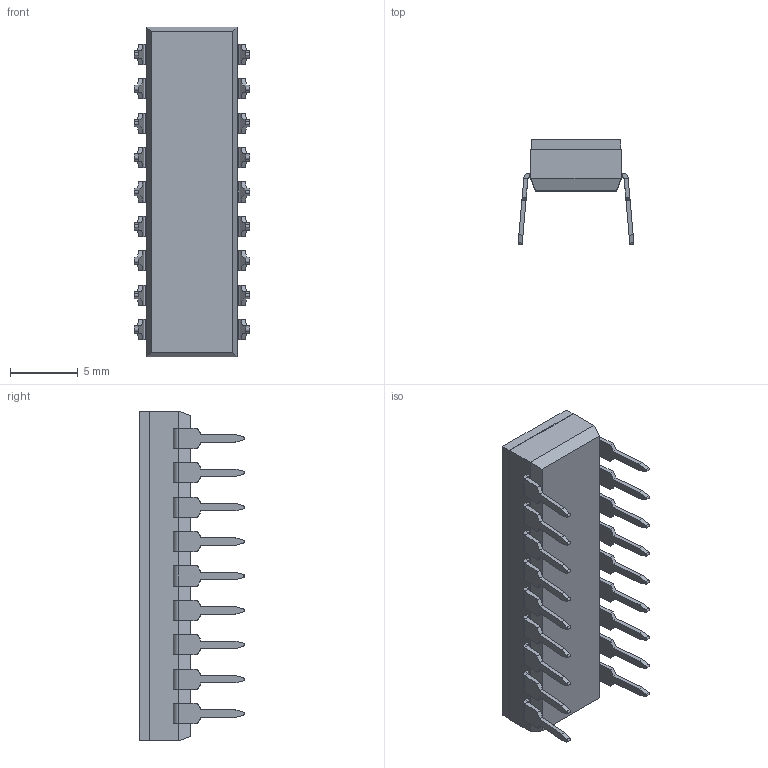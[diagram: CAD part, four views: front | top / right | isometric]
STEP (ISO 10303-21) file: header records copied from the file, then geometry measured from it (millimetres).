
FILE_DESCRIPTION (( 'STEP AP203' ), '1' );
FILE_NAME ('209-9LPS.STEP', '2019-05-24T07:18:37', ( '' ), ( '' ), 'SwSTEP 2.0', 'SolidWorks 2019', '' );
FILE_SCHEMA (( 'CONFIG_CONTROL_DESIGN' ));
Length unit declared in the file: millimetre
Products named in the file (5): 209-83-001-06-01 lead frame; 209-9LPS; 209-02-209 mold housing for 209; 209-40-209 for 209; 219-56-001
Assembly tree (20 placements, depth 2):
  209-9LPS
    209-02-209 mold housing for 209
    209-40-209 for 209
    219-56-001  x9
    209-83-001-06-01 lead frame  x9
Bounding box: 8.55 x 7.76 x 24.34 mm (x, y, z)
Volume: 525.1 mm3; surface area: 1721 mm2
Topology: 29 solids, 29 shells, 1247 faces, 3191 edges, 2018 vertices
Faces by surface type: plane 789, bspline 224, cylinder 198, sphere 36
Entity records: 29290 total; most frequent: CARTESIAN_POINT 16075, ORIENTED_EDGE 2918, DIRECTION 1755, EDGE_CURVE 1459, VECTOR 967, LINE 967, VERTEX_POINT 962, EDGE_LOOP 617
